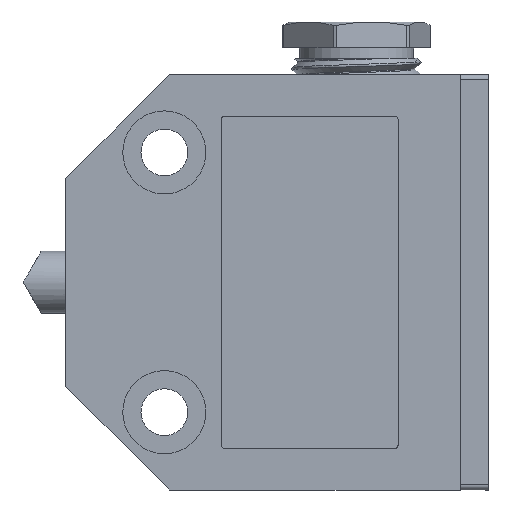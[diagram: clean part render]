
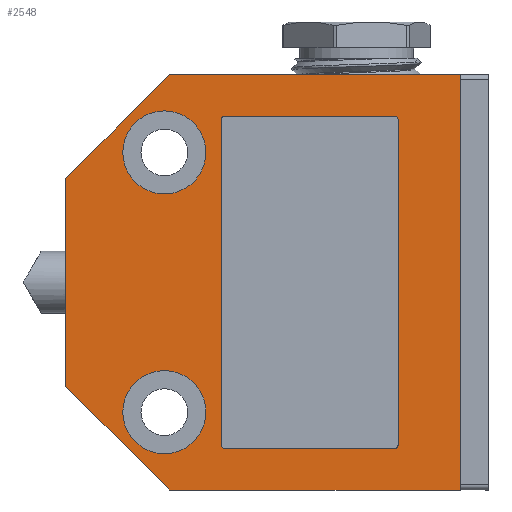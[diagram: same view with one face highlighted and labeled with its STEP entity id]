
A CAD part, left-side view. The second image highlights one B-rep face of the part: STEP entity #2548.
In plain terms, the highlighted planar face has unit normal (-1, 0, 0).
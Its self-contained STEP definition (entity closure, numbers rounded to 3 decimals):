
#112=CARTESIAN_POINT('',(-10.0,-10.75,20.0));
#113=VERTEX_POINT('',#112);
#122=CARTESIAN_POINT('',(-10.0,-10.75,-20.0));
#123=VERTEX_POINT('',#122);
#124=CARTESIAN_POINT('',(-10.0,-10.75,-20.0));
#125=DIRECTION('',(0.0,0.0,1.0));
#126=VECTOR('',#125,40.0);
#127=LINE('',#124,#126);
#128=EDGE_CURVE('',#123,#113,#127,.T.);
#161=CARTESIAN_POINT('',(-10.0,17.25,20.0));
#162=VERTEX_POINT('',#161);
#169=CARTESIAN_POINT('',(-10.0,17.25,20.0));
#170=DIRECTION('',(0.0,-1.0,0.0));
#171=VECTOR('',#170,28.);
#172=LINE('',#169,#171);
#173=EDGE_CURVE('',#162,#113,#172,.T.);
#1979=CARTESIAN_POINT('',(-10.0,11.95,16.0));
#1980=VERTEX_POINT('',#1979);
#1987=CARTESIAN_POINT('',(-10.0,12.25,15.7));
#1988=VERTEX_POINT('',#1987);
#1989=CARTESIAN_POINT('',(-10.0,11.95,15.7));
#1990=DIRECTION('',(-1.,0.0,0.0));
#1991=DIRECTION('',(0.0,0.707,0.707));
#1992=AXIS2_PLACEMENT_3D('',#1989,#1990,#1991);
#1993=CIRCLE('',#1992,0.3);
#1994=EDGE_CURVE('',#1980,#1988,#1993,.T.);
#2077=CARTESIAN_POINT('',(-10.0,12.25,-15.7));
#2078=VERTEX_POINT('',#2077);
#2079=CARTESIAN_POINT('',(-10.0,12.25,-15.7));
#2080=DIRECTION('',(0.0,0.0,1.0));
#2081=VECTOR('',#2080,31.4);
#2082=LINE('',#2079,#2081);
#2083=EDGE_CURVE('',#2078,#1988,#2082,.T.);
#2102=CARTESIAN_POINT('',(-10.0,11.95,-16.));
#2103=VERTEX_POINT('',#2102);
#2104=CARTESIAN_POINT('',(-10.0,11.95,-15.7));
#2105=DIRECTION('',(-1.,0.0,0.0));
#2106=DIRECTION('',(0.0,0.707,-0.707));
#2107=AXIS2_PLACEMENT_3D('',#2104,#2105,#2106);
#2108=CIRCLE('',#2107,0.3);
#2109=EDGE_CURVE('',#2078,#2103,#2108,.T.);
#2126=CARTESIAN_POINT('',(-10.0,-4.75,15.7));
#2127=VERTEX_POINT('',#2126);
#2134=CARTESIAN_POINT('',(-10.0,-4.45,16.));
#2135=VERTEX_POINT('',#2134);
#2136=CARTESIAN_POINT('',(-10.0,-4.45,15.7));
#2137=DIRECTION('',(-1.0,0.0,0.0));
#2138=DIRECTION('',(0.0,-0.707,0.707));
#2139=AXIS2_PLACEMENT_3D('',#2136,#2137,#2138);
#2140=CIRCLE('',#2139,0.3);
#2141=EDGE_CURVE('',#2127,#2135,#2140,.T.);
#2159=CARTESIAN_POINT('',(-10.0,-4.75,-15.7));
#2160=VERTEX_POINT('',#2159);
#2167=CARTESIAN_POINT('',(-10.0,-4.75,15.7));
#2168=DIRECTION('',(0.0,0.0,-1.0));
#2169=VECTOR('',#2168,31.4);
#2170=LINE('',#2167,#2169);
#2171=EDGE_CURVE('',#2127,#2160,#2170,.T.);
#2182=CARTESIAN_POINT('',(-10.0,-4.45,-16.0));
#2183=VERTEX_POINT('',#2182);
#2190=CARTESIAN_POINT('',(-10.0,-4.45,-15.7));
#2191=DIRECTION('',(-1.0,0.0,0.0));
#2192=DIRECTION('',(0.0,-0.707,-0.707));
#2193=AXIS2_PLACEMENT_3D('',#2190,#2191,#2192);
#2194=CIRCLE('',#2193,0.3);
#2195=EDGE_CURVE('',#2183,#2160,#2194,.T.);
#2207=CARTESIAN_POINT('',(-10.0,-4.45,-16.0));
#2208=DIRECTION('',(0.0,1.0,0.0));
#2209=VECTOR('',#2208,16.4);
#2210=LINE('',#2207,#2209);
#2211=EDGE_CURVE('',#2183,#2103,#2210,.T.);
#2226=CARTESIAN_POINT('',(-10.0,11.95,16.0));
#2227=DIRECTION('',(0.0,-1.0,0.0));
#2228=VECTOR('',#2227,16.4);
#2229=LINE('',#2226,#2228);
#2230=EDGE_CURVE('',#1980,#2135,#2229,.T.);
#2273=CARTESIAN_POINT('',(-10.0,27.25,-10.0));
#2274=VERTEX_POINT('',#2273);
#2281=CARTESIAN_POINT('',(-10.0,27.25,10.0));
#2282=VERTEX_POINT('',#2281);
#2283=CARTESIAN_POINT('',(-10.0,27.25,-10.0));
#2284=DIRECTION('',(0.0,0.0,1.0));
#2285=VECTOR('',#2284,20.0);
#2286=LINE('',#2283,#2285);
#2287=EDGE_CURVE('',#2274,#2282,#2286,.T.);
#2318=CARTESIAN_POINT('',(-10.0,13.75,12.5));
#2319=VERTEX_POINT('',#2318);
#2320=CARTESIAN_POINT('',(-10.0,17.75,12.5));
#2321=DIRECTION('',(1.0,0.0,0.0));
#2322=DIRECTION('',(0.0,1.0,0.0));
#2323=AXIS2_PLACEMENT_3D('',#2320,#2321,#2322);
#2324=CIRCLE('',#2323,4.0);
#2325=EDGE_CURVE('',#2319,#2319,#2324,.T.);
#2366=CARTESIAN_POINT('',(-10.0,13.75,-12.5));
#2367=VERTEX_POINT('',#2366);
#2368=CARTESIAN_POINT('',(-10.0,17.75,-12.5));
#2369=DIRECTION('',(1.0,0.0,0.0));
#2370=DIRECTION('',(0.0,1.0,0.0));
#2371=AXIS2_PLACEMENT_3D('',#2368,#2369,#2370);
#2372=CIRCLE('',#2371,4.0);
#2373=EDGE_CURVE('',#2367,#2367,#2372,.T.);
#2502=CARTESIAN_POINT('',(-10.0,3.079,0.));
#2503=DIRECTION('',(1.0,0.0,0.0));
#2504=DIRECTION('',(0.0,-1.0,0.0));
#2505=AXIS2_PLACEMENT_3D('',#2502,#2503,#2504);
#2506=PLANE('',#2505);
#2507=ORIENTED_EDGE('',*,*,#128,.T.);
#2508=ORIENTED_EDGE('',*,*,#173,.F.);
#2509=CARTESIAN_POINT('',(-10.0,27.25,10.));
#2510=DIRECTION('',(0.0,-0.707,0.707));
#2511=VECTOR('',#2510,14.142);
#2512=LINE('',#2509,#2511);
#2513=EDGE_CURVE('',#2282,#162,#2512,.T.);
#2514=ORIENTED_EDGE('',*,*,#2513,.F.);
#2515=ORIENTED_EDGE('',*,*,#2287,.F.);
#2516=CARTESIAN_POINT('',(-10.0,17.25,-20.0));
#2517=VERTEX_POINT('',#2516);
#2518=CARTESIAN_POINT('',(-10.0,17.25,-20.0));
#2519=DIRECTION('',(0.0,0.707,0.707));
#2520=VECTOR('',#2519,14.142);
#2521=LINE('',#2518,#2520);
#2522=EDGE_CURVE('',#2517,#2274,#2521,.T.);
#2523=ORIENTED_EDGE('',*,*,#2522,.F.);
#2524=CARTESIAN_POINT('',(-10.0,-10.75,-20.0));
#2525=DIRECTION('',(0.0,1.0,0.0));
#2526=VECTOR('',#2525,28.);
#2527=LINE('',#2524,#2526);
#2528=EDGE_CURVE('',#123,#2517,#2527,.T.);
#2529=ORIENTED_EDGE('',*,*,#2528,.F.);
#2530=EDGE_LOOP('',(#2507,#2508,#2514,#2515,#2523,#2529));
#2531=FACE_OUTER_BOUND('',#2530,.T.);
#2532=ORIENTED_EDGE('',*,*,#2171,.T.);
#2533=ORIENTED_EDGE('',*,*,#2195,.F.);
#2534=ORIENTED_EDGE('',*,*,#2211,.T.);
#2535=ORIENTED_EDGE('',*,*,#2109,.F.);
#2536=ORIENTED_EDGE('',*,*,#2083,.T.);
#2537=ORIENTED_EDGE('',*,*,#1994,.F.);
#2538=ORIENTED_EDGE('',*,*,#2230,.T.);
#2539=ORIENTED_EDGE('',*,*,#2141,.F.);
#2540=EDGE_LOOP('',(#2532,#2533,#2534,#2535,#2536,#2537,#2538,#2539));
#2541=FACE_BOUND('',#2540,.T.);
#2542=ORIENTED_EDGE('',*,*,#2325,.T.);
#2543=EDGE_LOOP('',(#2542));
#2544=FACE_BOUND('',#2543,.T.);
#2545=ORIENTED_EDGE('',*,*,#2373,.T.);
#2546=EDGE_LOOP('',(#2545));
#2547=FACE_BOUND('',#2546,.T.);
#2548=ADVANCED_FACE('',(#2531,#2541,#2544,#2547),#2506,.F.);
